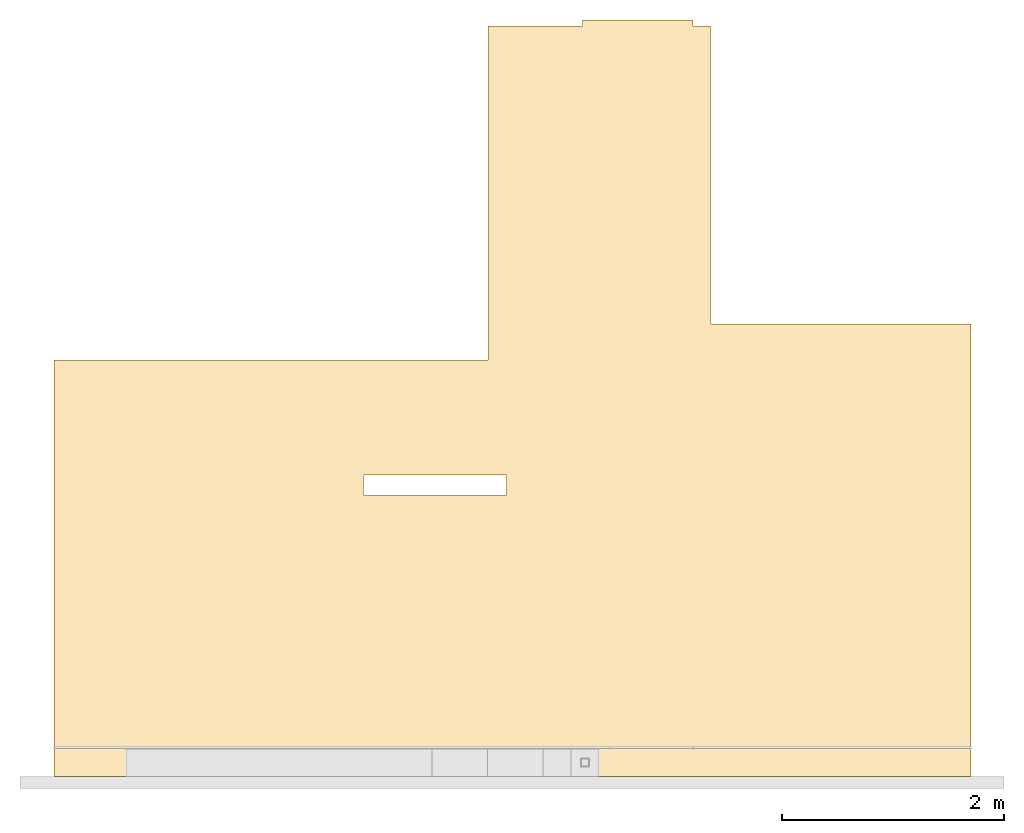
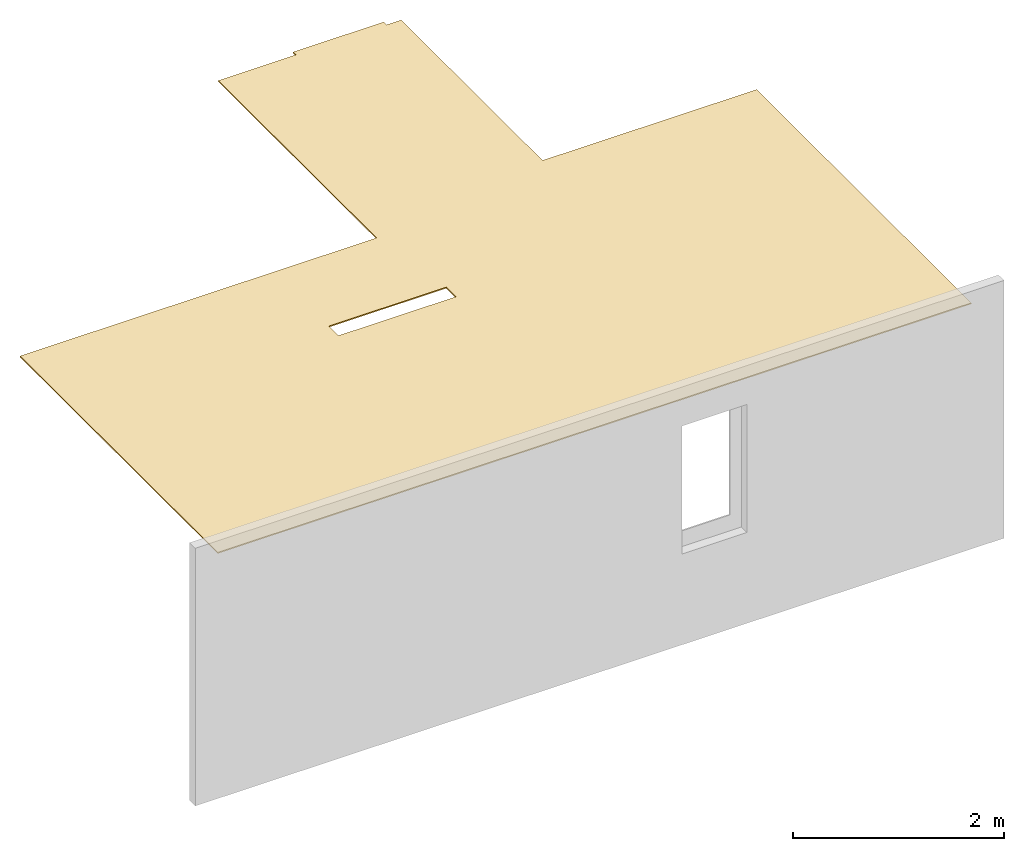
# One storey, part 2 of 2: 1 covering.
"""IFC4 building model written with IfcOpenShell, lengths in centimetres."""

from ifc_helpers import new_model, entity, si_unit, converted_unit, direction, frame, origin, place, context, subcontext, project, spatial, indexed_curve, outline, extrude, material, type_object, element, save


model = new_model("IFC4")

# Units and contexts
model_context = context("Model", 3, precision=0.001, world=origin(), true_north=direction((0.0, 1.0)))
body_context = subcontext(model_context, "Body", "Model", "MODEL_VIEW")
ifc_project = project(units=[si_unit("LENGTHUNIT", "METRE", prefix="CENTI"), si_unit("AREAUNIT", "SQUARE_METRE"), si_unit("VOLUMEUNIT", "CUBIC_METRE"), converted_unit("PLANEANGLEUNIT", "DEGREE", entity("IfcPlaneAngleMeasure", 0.017453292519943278), si_unit("PLANEANGLEUNIT", "RADIAN"), dimensions=[0, 0, 0, 0, 0, 0, 0])], contexts=[model_context])

# Site, building, storey
site_placement = place(None, origin())
site = spatial("IfcSite", under=ifc_project, at=site_placement, Name="Default", CompositionType="ELEMENT")
building_placement = place(site_placement, origin())
building = spatial("IfcBuilding", under=site, at=building_placement, CompositionType="ELEMENT")
storey_placement = place(building_placement, frame((0.0, 0.0, 558.0)))
storey = spatial("IfcBuildingStorey", under=building, at=storey_placement, Name="L02__ABOVE Slab", CompositionType="ELEMENT", Elevation=557.9999999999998)

# Covering
ifc_material = material(Name="_WLL & CLG FINISHES__Lime - CEM Plaster", Category="Unassigned")
covering_type = type_object("IfcCoveringType", Name="Ceilings : Compound Ceiling : clg__INT COVERING__, GB 1.5cm__12.5(A) 3", PredefinedType="CEILING")
covering_placement = place(storey_placement, frame((1908.7073258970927, 3150.7022546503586, 274.6999999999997)))
element("IfcCovering", 1, at=covering_placement, inside=storey, type_object=covering_type, material=ifc_material, Name="Ceilings : Compound Ceiling : clg__INT COVERING__, GB 1.5cm__12.5(A) 3", PredefinedType="CEILING", context=body_context, shape_type="SweptSolid", body=[
    extrude(outline(indexed_curve([(-468.43421348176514, -348.61667177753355), (-61.62893259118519, -348.61667177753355), (-61.62893259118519, -114.51696836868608), (206.16578651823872, -114.51631385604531), (206.16578651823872, -98.61667177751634), (211.56578651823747, -98.61667177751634), (211.56578651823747, 0.5833282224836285), (206.16578651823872, 0.5833282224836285), (206.16578651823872, 85.5833282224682), (-93.83421348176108, 85.58332822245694), (-93.83421348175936, 475.5833282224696), (-468.43421348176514, 475.5833282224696), (-468.43421348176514, -348.61667177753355)], self_intersect=False), holes=[indexed_curve([(-215.53421348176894, 69.1277657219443), (-215.53421348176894, 197.70288219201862), (-197.33421348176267, 197.70288219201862), (-197.33421348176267, 69.1277657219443), (-215.53421348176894, 69.1277657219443)], self_intersect=False)]), frame((475.5833282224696, 468.4342134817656, 0.0), z_axis=(0.0, 0.0, 1.0), x_axis=(0.0, 1.0, 0.0)), (0.0, 0.0, 1.0), 1.3000000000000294),
])

save(model, "model.ifc")
